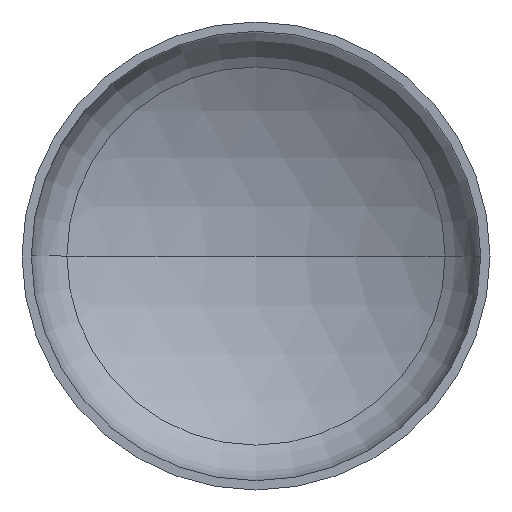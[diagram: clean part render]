
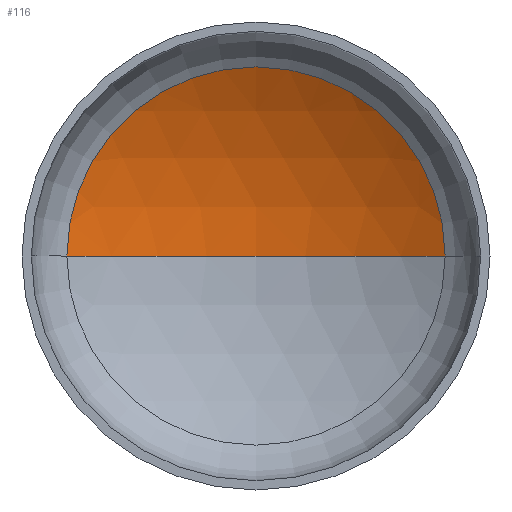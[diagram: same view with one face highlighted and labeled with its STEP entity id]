
A CAD part, front view. The second image highlights one B-rep face of the part: STEP entity #116.
In plain terms, the highlighted spherical face has radius 2400 mm.
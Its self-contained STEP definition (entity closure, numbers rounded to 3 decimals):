
#12 = ORIENTED_EDGE ( 'NONE', *, *, #358, .F. ) ;
#17 = AXIS2_PLACEMENT_3D ( 'NONE', #184, #41, #58 ) ;
#19 = AXIS2_PLACEMENT_3D ( 'NONE', #210, #371, #323 ) ;
#20 = AXIS2_PLACEMENT_3D ( 'NONE', #186, #179, #409 ) ;
#41 = DIRECTION ( 'NONE',  ( 0., 0., 1. ) ) ;
#42 = EDGE_LOOP ( 'NONE', ( #12, #307, #146 ) ) ;
#51 = AXIS2_PLACEMENT_3D ( 'NONE', #318, #304, #204 ) ;
#58 = DIRECTION ( 'NONE',  ( 1., 0., 0. ) ) ;
#108 = VERTEX_POINT ( 'NONE', #297 ) ;
#116 = ADVANCED_FACE ( 'NONE', ( #129 ), #223, .F. ) ;
#117 = VERTEX_POINT ( 'NONE', #313 ) ;
#129 = FACE_OUTER_BOUND ( 'NONE', #42, .T. ) ;
#146 = ORIENTED_EDGE ( 'NONE', *, *, #355, .T. ) ;
#155 = VERTEX_POINT ( 'NONE', #217 ) ;
#179 = DIRECTION ( 'NONE',  ( 0., -1., 0. ) ) ;
#183 = CIRCLE ( 'NONE', #19, 2400. ) ;
#184 = CARTESIAN_POINT ( 'NONE',  ( 0., -1554.276, 0. ) ) ;
#186 = CARTESIAN_POINT ( 'NONE',  ( 0., 516.993, 0. ) ) ;
#200 = CIRCLE ( 'NONE', #20, 1212.371 ) ;
#204 = DIRECTION ( 'NONE',  ( -1., 0., 0. ) ) ;
#210 = CARTESIAN_POINT ( 'NONE',  ( 0., -1554.276, 0. ) ) ;
#217 = CARTESIAN_POINT ( 'NONE',  ( 1212.371, 516.993, 0. ) ) ;
#223 = SPHERICAL_SURFACE ( 'NONE', #51, 2400. ) ;
#297 = CARTESIAN_POINT ( 'NONE',  ( 0., 845.724, 0. ) ) ;
#304 = DIRECTION ( 'NONE',  ( 0., 0., -1. ) ) ;
#307 = ORIENTED_EDGE ( 'NONE', *, *, #357, .T. ) ;
#313 = CARTESIAN_POINT ( 'NONE',  ( -1212.371, 516.993, 0. ) ) ;
#318 = CARTESIAN_POINT ( 'NONE',  ( 0., -1554.276, 0. ) ) ;
#323 = DIRECTION ( 'NONE',  ( -1., 0., 0. ) ) ;
#355 = EDGE_CURVE ( 'NONE', #155, #117, #200, .T. ) ;
#357 = EDGE_CURVE ( 'NONE', #108, #155, #183, .T. ) ;
#358 = EDGE_CURVE ( 'NONE', #108, #117, #362, .T. ) ;
#362 = CIRCLE ( 'NONE', #17, 2400. ) ;
#371 = DIRECTION ( 'NONE',  ( 0., 0., -1. ) ) ;
#409 = DIRECTION ( 'NONE',  ( 1., 0., 0. ) ) ;
